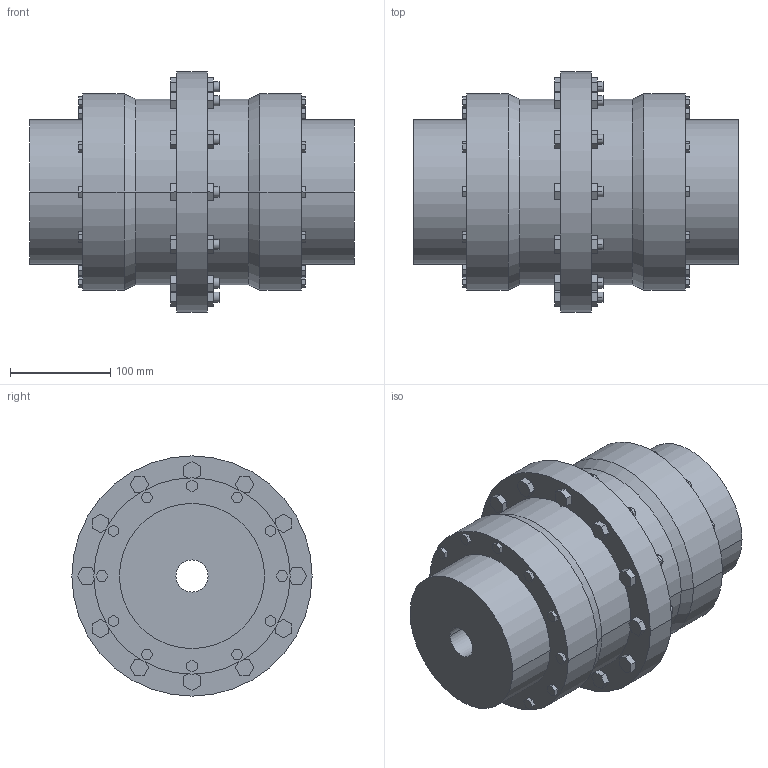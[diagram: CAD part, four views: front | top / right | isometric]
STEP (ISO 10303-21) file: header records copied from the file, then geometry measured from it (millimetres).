
FILE_DESCRIPTION((''),'2;1');
FILE_NAME('A19715300-0_ASM','2019-05-23T',('AB_Roschiwal'),('RENK AG'),'PRO/ENGINEER BY PARAMETRIC TECHNOLOGY CORPORATION, 2015440','PRO/ENGINEER BY PARAMETRIC TECHNOLOGY CORPORATION, 2015440','');
FILE_SCHEMA(('CONFIG_CONTROL_DESIGN'));
Length unit declared in the file: millimetre
Products named in the file (3): SBK90_GEHAEUSE; SBK90_NABE; A19715300-0_ASM
Assembly tree (3 placements, depth 2):
  A19715300-0_ASM
    SBK90_GEHAEUSE
    SBK90_NABE  x2
Bounding box: 324 x 240 x 240 mm (x, y, z)
Volume: 5823908.1 mm3; surface area: 546551.9 mm2
Topology: 3 solids, 3 shells, 422 faces, 1036 edges, 688 vertices
Faces by surface type: plane 362, cylinder 56, cone 4
Entity records: 12052 total; most frequent: CARTESIAN_POINT 2100, ORIENTED_EDGE 2024, DIRECTION 1940, EDGE_CURVE 1012, VECTOR 916, LINE 916, VERTEX_POINT 672, AXIS2_PLACEMENT_3D 512
